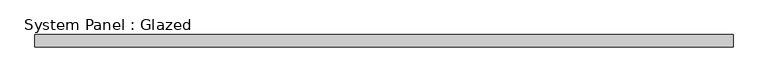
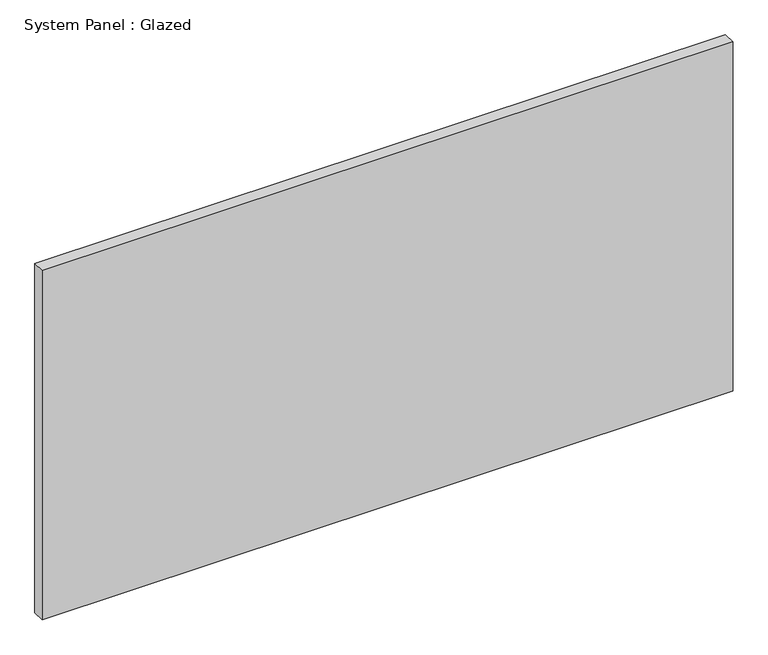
"""IFC4 building model written with IfcOpenShell, lengths in millimetres: plate geometry, System Panel : Glazed."""

import ifcopenshell
import ifcopenshell.guid

model = None  # the IFC model being written
_history = None  # IfcOwnerHistory: only IFC2X3 demands one
_inside = {}  # id of a spatial element -> (the spatial element, [elements in it])
_under = {}  # id of a project, library or spatial element -> (it, [spatial elements below it])
_declared = {}  # id of a project -> (the project, [libraries it declares])
_typed = {}  # id of a type object -> (the type object, [elements of that type])
_made_of = {}  # id of a material, layer set ... -> (it, [elements and type objects made of it])


def new_model(schema):
    """Start an empty IFC model of exactly this schema.

    Asked for "IFC4X3", IfcOpenShell would pick the latest addendum, in which some entities
    have other attributes; the version numbers below select the first issue.
    IFC2X3 requires an IfcOwnerHistory on every rooted entity: one is made here for all.
    """
    global model, _history
    if schema == "IFC4X3":
        model = ifcopenshell.file(schema_version=(4, 3, 0, 0))
    else:
        model = ifcopenshell.file(schema=schema)
    _inside.clear()
    _under.clear()
    _declared.clear()
    _typed.clear()
    _made_of.clear()
    _history = None
    if model.schema == "IFC2X3":
        org = make("IfcOrganization", Name="unknown")
        user = make(
            "IfcPersonAndOrganization",
            ThePerson=make("IfcPerson", FamilyName="unknown"),
            TheOrganization=org,
        )
        app = make(
            "IfcApplication",
            ApplicationDeveloper=org,
            Version="unknown",
            ApplicationFullName="unknown",
            ApplicationIdentifier="unknown",
        )
        _history = make(
            "IfcOwnerHistory",
            OwningUser=user,
            OwningApplication=app,
            ChangeAction="ADDED",
            CreationDate=0,
        )
    return model


def make(cls, **values):
    """One entity of the class cls with the attributes given. An attribute that is None is left unset."""
    return model.create_entity(
        cls, **{name: value for name, value in values.items() if value is not None}
    )


def rooted(cls, **values):
    """An entity with a GlobalId (a new one), such as an element, a storey or a relation."""
    return make(cls, GlobalId=ifcopenshell.guid.new(), OwnerHistory=_history, **values)


def si_unit(unit_type, name, prefix=None):
    """IfcSIUnit, for example si_unit("LENGTHUNIT", "METRE", prefix="MILLI")."""
    return make("IfcSIUnit", UnitType=unit_type, Prefix=prefix, Name=name)


def assignment(units):
    """IfcUnitAssignment: the units of a project."""
    return None if units is None else make("IfcUnitAssignment", Units=units)


def point(xyz):
    """IfcCartesianPoint."""
    return None if xyz is None else make("IfcCartesianPoint", Coordinates=xyz)


def direction(xyz):
    """IfcDirection."""
    return None if xyz is None else make("IfcDirection", DirectionRatios=xyz)


def frame(location, z_axis=None, x_axis=None):
    """IfcAxis2Placement3D, a coordinate frame: its origin and axes. An axis left out is left unset."""
    return make(
        "IfcAxis2Placement3D",
        Location=point(location),
        Axis=direction(z_axis),
        RefDirection=direction(x_axis),
    )


def origin():
    """The frame at (0, 0, 0) with its axes left unset."""
    return frame((0.0, 0.0, 0.0))


def origin_with_axes():
    """The frame at (0, 0, 0) with the z axis (0, 0, 1) and the x axis (1, 0, 0) written out."""
    return frame((0.0, 0.0, 0.0), z_axis=(0.0, 0.0, 1.0), x_axis=(1.0, 0.0, 0.0))


def place(relative_to, where):
    """IfcLocalPlacement: puts the frame where relative to a parent placement (None: the world)."""
    return make(
        "IfcLocalPlacement", PlacementRelTo=relative_to, RelativePlacement=where
    )


def context(
    kind, dimensions, precision=None, world=None, true_north=None, identifier=None
):
    """IfcGeometricRepresentationContext, for example the 3D "Model" context."""
    return make(
        "IfcGeometricRepresentationContext",
        ContextIdentifier=identifier,
        ContextType=kind,
        CoordinateSpaceDimension=dimensions,
        Precision=precision,
        WorldCoordinateSystem=world,
        TrueNorth=true_north,
    )


def project(units=None, contexts=None):
    """IfcProject with its units and contexts."""
    return rooted(
        "IfcProject",
        Name="project",
        RepresentationContexts=contexts,
        UnitsInContext=assignment(units),
    )


def spatial(cls, under=None, at=None, **own):
    """A site, building, storey or space (cls), placed at a placement, below another one or the project."""
    s = rooted(cls, ObjectPlacement=at, **own)
    if under is not None:
        _under.setdefault(under.id(), (under, []))[1].append(s)
    return s


def polyline(points):
    """IfcPolyline through the points."""
    return make("IfcPolyline", Points=[point(p) for p in points])


def outline(outer, holes=None, kind="AREA"):
    """IfcArbitraryClosedProfileDef: a profile drawn as a closed curve; with holes, ...WithVoids."""
    if holes is None:
        return make("IfcArbitraryClosedProfileDef", ProfileType=kind, OuterCurve=outer)
    return make(
        "IfcArbitraryProfileDefWithVoids",
        ProfileType=kind,
        OuterCurve=outer,
        InnerCurves=holes,
    )


def extrude(swept, where, along, depth):
    """IfcExtrudedAreaSolid: the profile swept, set in the frame where, extruded along a direction by depth."""
    return make(
        "IfcExtrudedAreaSolid",
        SweptArea=swept,
        Position=where,
        ExtrudedDirection=direction(along),
        Depth=depth,
    )


def shape(context_of_items, identifier, shape_type, items):
    """IfcShapeRepresentation: the items that make up one representation, for example the "Body"."""
    return make(
        "IfcShapeRepresentation",
        ContextOfItems=context_of_items,
        RepresentationIdentifier=identifier,
        RepresentationType=shape_type,
        Items=items,
    )


def source(mapping_origin, context_of_items, identifier, shape_type, items):
    """IfcRepresentationMap: a shape defined once, which mapped items show again and again."""
    return make(
        "IfcRepresentationMap",
        MappingOrigin=mapping_origin,
        MappedRepresentation=shape(context_of_items, identifier, shape_type, items),
    )


def transform(
    local_origin,
    x_axis=None,
    y_axis=None,
    z_axis=None,
    scale=None,
    scale2=None,
    scale3=None,
    uniform=True,
):
    """IfcCartesianTransformationOperator3D, or its non-uniform kind. x_axis, y_axis, z_axis: its Axis1, 2, 3."""
    if uniform:
        return make(
            "IfcCartesianTransformationOperator3D",
            Axis1=direction(x_axis),
            Axis2=direction(y_axis),
            LocalOrigin=point(local_origin),
            Scale=scale,
            Axis3=direction(z_axis),
        )
    return make(
        "IfcCartesianTransformationOperator3DnonUniform",
        Axis1=direction(x_axis),
        Axis2=direction(y_axis),
        LocalOrigin=point(local_origin),
        Scale=scale,
        Axis3=direction(z_axis),
        Scale2=scale2,
        Scale3=scale3,
    )


def mapped(mapping_source, mapping_target):
    """IfcMappedItem: shows the shape of a source again, moved by a transform."""
    return make(
        "IfcMappedItem", MappingSource=mapping_source, MappingTarget=mapping_target
    )


def made_of(thing, what):
    """Note that an element or type object is made of a material, layer set ...; save() writes the relation."""
    if what is not None:
        _made_of.setdefault(what.id(), (what, []))[1].append(thing)
    return thing


def element(
    cls,
    number,
    at=None,
    inside=None,
    cuts=None,
    type_object=None,
    material=None,
    context=None,
    identifier="Body",
    shape_type=None,
    held_by="IfcProductDefinitionShape",
    body=None,
    shapes=None,
    **own,
):
    """One element of the class cls, such as IfcWall. Its Tag is "e" and its number.

    at: its placement. inside: the storey or other place that contains it. cuts: it is an
    opening in that element (IfcRelVoidsElement). A single representation is given by context,
    identifier, shape_type and body (its items); several are given by shapes. held_by: the class
    of the entity that holds the representations. save() writes the other relations.
    """
    e = rooted(cls, Tag="e%d" % number, ObjectPlacement=at, **own)
    if body is not None:
        shapes = [shape(context, identifier, shape_type, body)]
    if shapes is not None:
        e.Representation = make(held_by, Representations=shapes)
    if inside is not None:
        _inside.setdefault(inside.id(), (inside, []))[1].append(e)
    if cuts is not None:
        rooted(
            "IfcRelVoidsElement", RelatingBuildingElement=cuts, RelatedOpeningElement=e
        )
    if type_object is not None:
        _typed.setdefault(type_object.id(), (type_object, []))[1].append(e)
    return made_of(e, material)


def aggregate(whole, parts):
    """IfcRelAggregates: a whole, such as a stair, and the parts it consists of."""
    return rooted("IfcRelAggregates", RelatingObject=whole, RelatedObjects=parts)


def save(model, path):
    """Write the relations noted so far, then the file.

    IfcRelAggregates (storeys below a building ...), IfcRelContainedInSpatialStructure (elements
    in a storey), IfcRelDefinesByType, IfcRelAssociatesMaterial and IfcRelDeclares: one each for
    every whole, place, type object, material and project.
    """
    for whole, parts in _under.values():
        aggregate(whole, parts)
    for where, things in _inside.values():
        rooted(
            "IfcRelContainedInSpatialStructure",
            RelatedElements=things,
            RelatingStructure=where,
        )
    for kind, things in _typed.values():
        rooted("IfcRelDefinesByType", RelatedObjects=things, RelatingType=kind)
    for what, things in _made_of.values():
        rooted("IfcRelAssociatesMaterial", RelatedObjects=things, RelatingMaterial=what)
    for by, libraries in _declared.values():
        rooted("IfcRelDeclares", RelatingContext=by, RelatedDefinitions=libraries)
    model.write(path)


def system_panel_glazed_d933175f(model_context):
    return source(origin(), model_context, "Body", "SweptSolid", [
        extrude(outline(polyline([(701.1589132, -49.5), (-701.1589132, -49.5), (-701.1589132, -24.5), (701.1589132, -24.5), (701.1589132, -49.5)])), origin_with_axes(), (0.0, 0.0, 1.0), 749.5150656),
    ])


if __name__ == "__main__":
    model = new_model("IFC4")
    model_context = context("Model", 3, world=origin())
    ifc_project = project(units=[si_unit("LENGTHUNIT", "METRE", prefix="MILLI")], contexts=[model_context])
    site = spatial("IfcSite", under=ifc_project)
    building = spatial("IfcBuilding", under=site)
    placement = place(None, origin())
    system_panel_glazed_shape = system_panel_glazed_d933175f(model_context)
    element("IfcPlate", 1, ObjectType="System Panel : Glazed", at=placement, inside=building, context=model_context, shape_type="MappedRepresentation", body=[
        mapped(system_panel_glazed_shape, transform((0.0, 0.0, 0.0), x_axis=(1.0, 0.0, 0.0), y_axis=(0.0, 1.0, 0.0), z_axis=(0.0, 0.0, 1.0))),
    ])
    save(model, "model.ifc")
